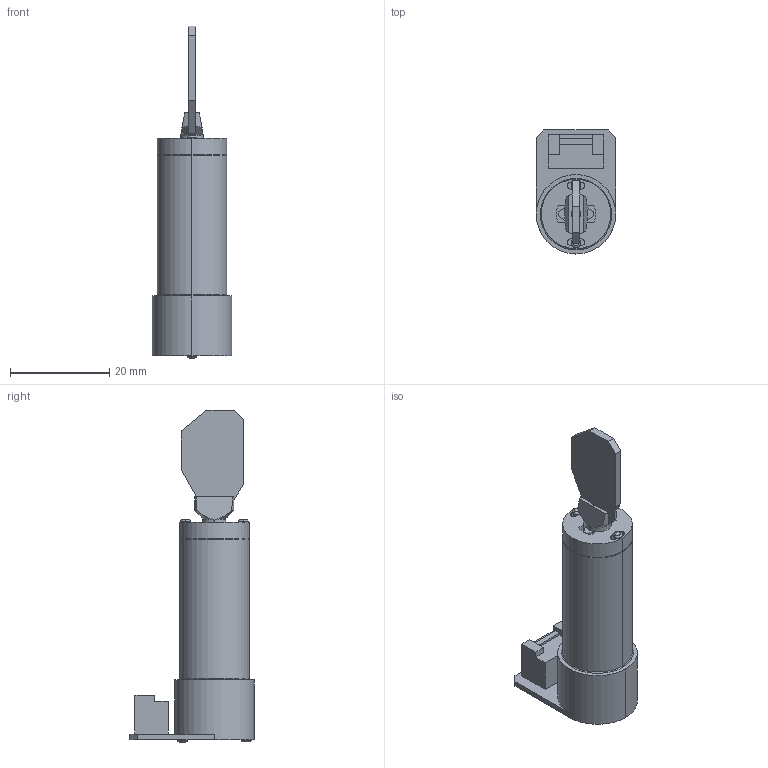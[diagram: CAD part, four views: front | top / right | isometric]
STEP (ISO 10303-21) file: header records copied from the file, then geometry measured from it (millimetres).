
FILE_DESCRIPTION (( 'STEP AP214' ), '1' );
FILE_NAME ('2002403_GVM-1445L-0010M GM1Y.STEP', '2019-01-25T10:24:49', ( '' ), ( '' ), 'SwSTEP 2.0', 'SolidWorks 2018', '' );
FILE_SCHEMA (( 'AUTOMOTIVE_DESIGN' ));
Length unit declared in the file: millimetre
Products named in the file (5): 502-132a_GM1_1445L; 2002401_GVM-1445L-00100; 2002403_GVM-1445L-0010M GM1Y; 2001810_GM1Y(1445L用); 501-058_GM1Y
Assembly tree (4 placements, depth 3):
  2002403_GVM-1445L-0010M GM1Y
    2002401_GVM-1445L-00100
    2001810_GM1Y(1445L用)
      502-132a_GM1_1445L
      501-058_GM1Y
Bounding box: 16 x 25 x 66.9 mm (x, y, z)
Volume: 8385.4 mm3; surface area: 4004.7 mm2
Topology: 3 solids, 3 shells, 134 faces, 351 edges, 226 vertices
Faces by surface type: plane 69, cylinder 49, torus 10, cone 6
Entity records: 4379 total; most frequent: CARTESIAN_POINT 783, DIRECTION 771, ORIENTED_EDGE 702, EDGE_CURVE 351, AXIS2_PLACEMENT_3D 294, VERTEX_POINT 226, VECTOR 183, LINE 183
